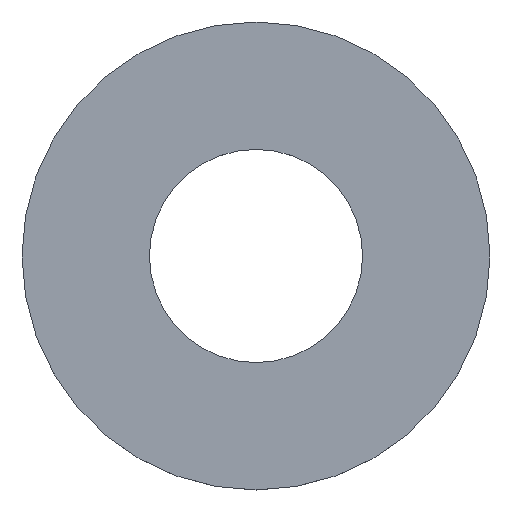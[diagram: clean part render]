
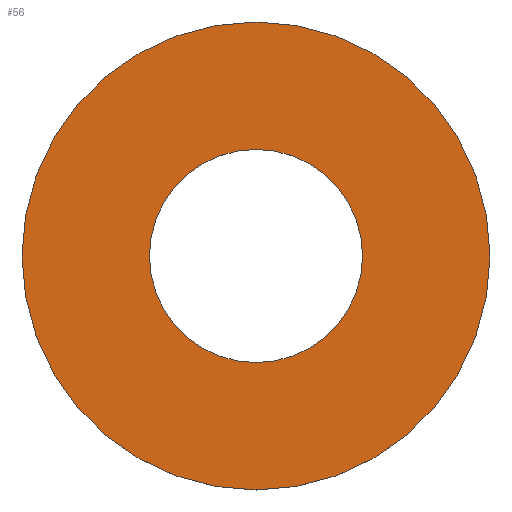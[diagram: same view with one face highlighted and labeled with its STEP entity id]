
A CAD part, top view. The second image highlights one B-rep face of the part: STEP entity #56.
In plain terms, the highlighted planar face has unit normal (0, 0, 1).
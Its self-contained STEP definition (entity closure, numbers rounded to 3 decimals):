
#14=PLANE('',#67);
#18=FACE_BOUND('',#28,.T.);
#19=FACE_BOUND('',#29,.T.);
#28=EDGE_LOOP('',(#48));
#29=EDGE_LOOP('',(#49));
#32=CIRCLE('',#62,11.5);
#34=CIRCLE('',#65,25.25);
#36=VERTEX_POINT('',#89);
#38=VERTEX_POINT('',#94);
#40=EDGE_CURVE('',#36,#36,#32,.T.);
#42=EDGE_CURVE('',#38,#38,#34,.T.);
#48=ORIENTED_EDGE('',*,*,#40,.T.);
#49=ORIENTED_EDGE('',*,*,#42,.F.);
#56=ADVANCED_FACE('',(#18,#19),#14,.F.);
#62=AXIS2_PLACEMENT_3D('',#90,#73,#74);
#65=AXIS2_PLACEMENT_3D('',#95,#79,#80);
#67=AXIS2_PLACEMENT_3D('',#98,#83,#84);
#73=DIRECTION('center_axis',(0.,0.,-1.));
#74=DIRECTION('ref_axis',(-1.,0.,0.));
#79=DIRECTION('center_axis',(0.,0.,-1.));
#80=DIRECTION('ref_axis',(-1.,0.,0.));
#83=DIRECTION('center_axis',(0.,0.,-1.));
#84=DIRECTION('ref_axis',(-1.,0.,0.));
#89=CARTESIAN_POINT('',(11.5,0.,2.));
#90=CARTESIAN_POINT('Origin',(0.,0.,2.));
#94=CARTESIAN_POINT('',(25.25,0.,2.));
#95=CARTESIAN_POINT('Origin',(0.,0.,2.));
#98=CARTESIAN_POINT('Origin',(0.,0.,2.));
